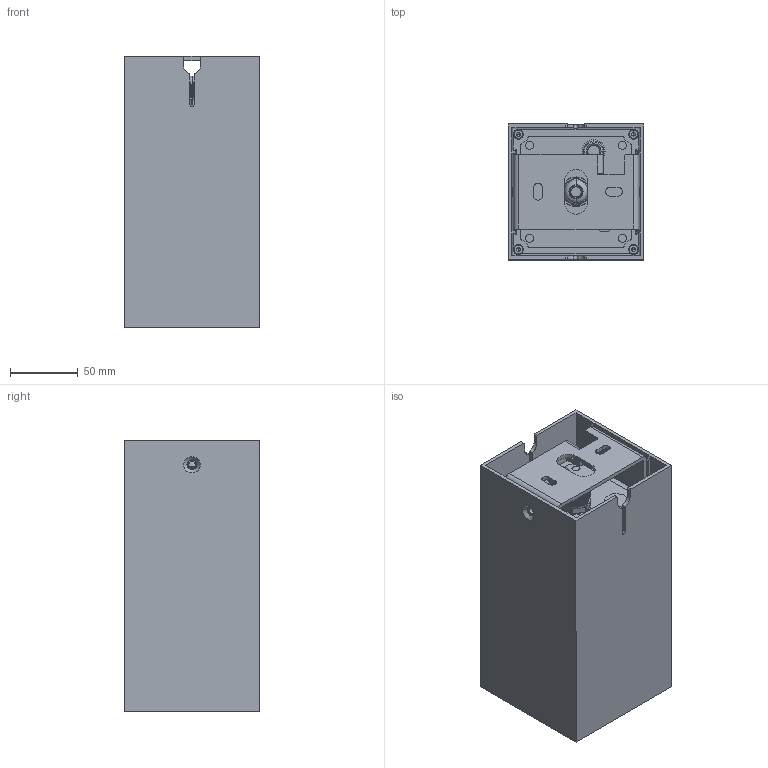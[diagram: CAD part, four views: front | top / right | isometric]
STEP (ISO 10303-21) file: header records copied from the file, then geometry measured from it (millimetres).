
FILE_DESCRIPTION((''),'2;1');
FILE_NAME('B8WH0170_ASM','2024-11-22T',('C027'),(''),'CREO PARAMETRIC BY PTC INC, 2014500','CREO PARAMETRIC BY PTC INC, 2014500','');
FILE_SCHEMA(('CONFIG_CONTROL_DESIGN'));
Products named in the file (26): 8WH-A; 9-1; O-100; 9-3; 3CT_; 7AH_; 9-4; 8-8_; 7VAUXINGDG_10_8; 7VB-O_; 8WK; QI_FA; PRT0009_2; PRT0010_3; PRT0011_2; ASM0006_ASM_1_ASM; PG9_ASM; M4-8; ADMI10501E58VIR1_1; ADMI10501E58VIR1_2; ADMI10501E58VIR1_3; ADMI10501E58VIR1_ASM; SH-SRB; D68-_-E_ASM; 7VANEIGAI_2_6_; B8WH0170_ASM
Assembly tree (33 placements, depth 4):
  B8WH0170_ASM
    8WH-A
    9-1
    O-100
    9-3
    3CT_
    7AH_
    9-4
    8-8_  x2
    7VAUXINGDG_10_8
    7VB-O_
    8WK
    QI_FA
    PG9_ASM
      ASM0006_ASM_1_ASM
        PRT0009_2
        PRT0010_3
        PRT0011_2
    M4-8  x8
    D68-_-E_ASM
      ADMI10501E58VIR1_ASM
        ADMI10501E58VIR1_1
        ADMI10501E58VIR1_2
        ADMI10501E58VIR1_3
      SH-SRB
    7VANEIGAI_2_6_
Bounding box: 100 x 100 x 200.01 mm (x, y, z)
Volume: 806906.4 mm3; surface area: 349783.9 mm2
Topology: 28 solids, 28 shells, 3662 faces, 9331 edges, 5782 vertices
Faces by surface type: plane 1713, cylinder 815, cone 687, bspline 176, torus 118, sphere 80, extrusion 73
Entity records: 106078 total; most frequent: CARTESIAN_POINT 34421, ORIENTED_EDGE 15538, DIRECTION 13779, EDGE_CURVE 7769, VERTEX_POINT 4955, VECTOR 4855, LINE 4782, AXIS2_PLACEMENT_3D 4462
